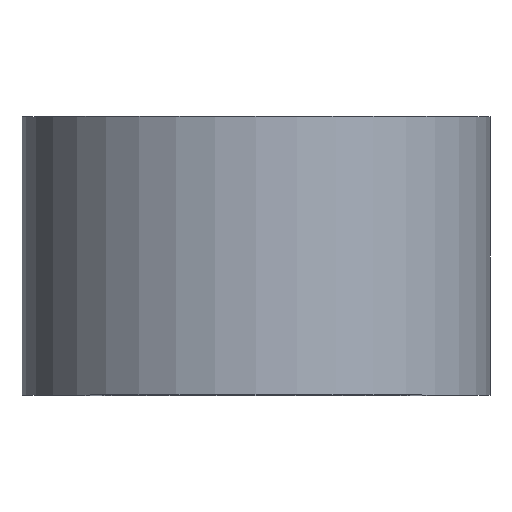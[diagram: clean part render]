
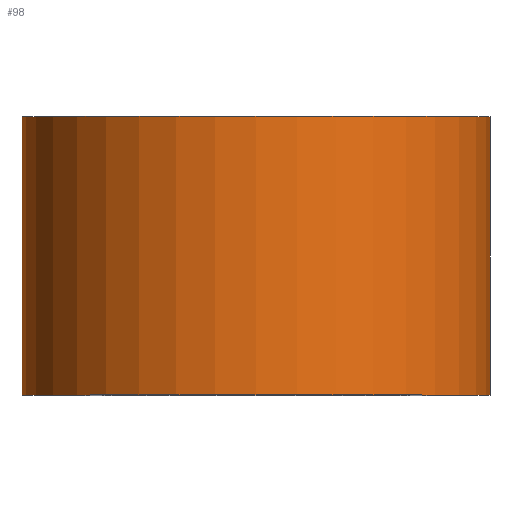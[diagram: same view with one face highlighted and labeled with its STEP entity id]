
A CAD part, top view. The second image highlights one B-rep face of the part: STEP entity #98.
In plain terms, the highlighted cylindrical face has radius 21 mm (diameter 42 mm), a partial arc.
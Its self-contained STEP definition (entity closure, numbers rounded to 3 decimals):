
#3 = CARTESIAN_POINT ( 'NONE',  ( 21., 25., 0. ) ) ;
#17 = VERTEX_POINT ( 'NONE', #40 ) ;
#22 = CIRCLE ( 'NONE', #72, 21. ) ;
#27 = DIRECTION ( 'NONE',  ( -1., 0., 0. ) ) ;
#29 = CARTESIAN_POINT ( 'NONE',  ( 0., 0., 0. ) ) ;
#37 = EDGE_LOOP ( 'NONE', ( #106, #188, #81, #261 ) ) ;
#40 = CARTESIAN_POINT ( 'NONE',  ( -21., 0., 0. ) ) ;
#43 = VERTEX_POINT ( 'NONE', #298 ) ;
#52 = DIRECTION ( 'NONE',  ( 0., 1., 0. ) ) ;
#60 = AXIS2_PLACEMENT_3D ( 'NONE', #132, #73, #93 ) ;
#72 = AXIS2_PLACEMENT_3D ( 'NONE', #29, #52, #27 ) ;
#73 = DIRECTION ( 'NONE',  ( 0., 1., 0. ) ) ;
#76 = CIRCLE ( 'NONE', #60, 21. ) ;
#81 = ORIENTED_EDGE ( 'NONE', *, *, #211, .F. ) ;
#82 = DIRECTION ( 'NONE',  ( 0., 1., 0. ) ) ;
#93 = DIRECTION ( 'NONE',  ( -1., 0., 0. ) ) ;
#98 = ADVANCED_FACE ( 'NONE', ( #134 ), #227, .T. ) ;
#105 = VECTOR ( 'NONE', #82, 1000. ) ;
#106 = ORIENTED_EDGE ( 'NONE', *, *, #193, .T. ) ;
#118 = DIRECTION ( 'NONE',  ( 0., 1., 0. ) ) ;
#125 = AXIS2_PLACEMENT_3D ( 'NONE', #172, #151, #200 ) ;
#132 = CARTESIAN_POINT ( 'NONE',  ( 0., 25., 0. ) ) ;
#133 = CARTESIAN_POINT ( 'NONE',  ( -21., 25., 0. ) ) ;
#134 = FACE_OUTER_BOUND ( 'NONE', #37, .T. ) ;
#151 = DIRECTION ( 'NONE',  ( 0., 1., 0. ) ) ;
#157 = LINE ( 'NONE', #210, #105 ) ;
#172 = CARTESIAN_POINT ( 'NONE',  ( 0., 0., 0. ) ) ;
#188 = ORIENTED_EDGE ( 'NONE', *, *, #283, .T. ) ;
#193 = EDGE_CURVE ( 'NONE', #17, #43, #22, .T. ) ;
#200 = DIRECTION ( 'NONE',  ( -1., 0., 0. ) ) ;
#209 = LINE ( 'NONE', #229, #216 ) ;
#210 = CARTESIAN_POINT ( 'NONE',  ( -21., 0., 0. ) ) ;
#211 = EDGE_CURVE ( 'NONE', #248, #268, #76, .T. ) ;
#216 = VECTOR ( 'NONE', #118, 1000. ) ;
#227 = CYLINDRICAL_SURFACE ( 'NONE', #125, 21. ) ;
#229 = CARTESIAN_POINT ( 'NONE',  ( 21., 0., 0. ) ) ;
#248 = VERTEX_POINT ( 'NONE', #133 ) ;
#261 = ORIENTED_EDGE ( 'NONE', *, *, #292, .F. ) ;
#268 = VERTEX_POINT ( 'NONE', #3 ) ;
#283 = EDGE_CURVE ( 'NONE', #43, #268, #209, .T. ) ;
#292 = EDGE_CURVE ( 'NONE', #17, #248, #157, .T. ) ;
#298 = CARTESIAN_POINT ( 'NONE',  ( 21., 0., 0. ) ) ;
